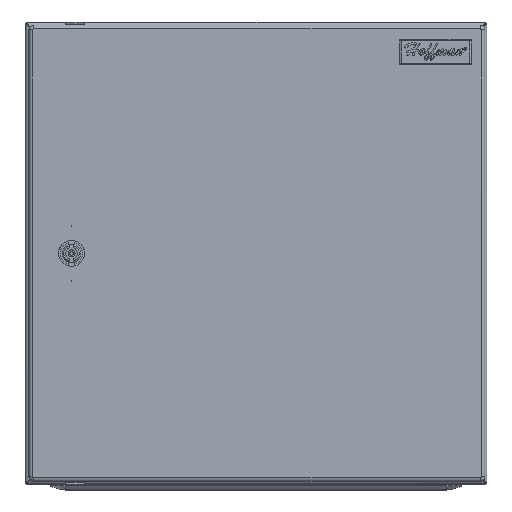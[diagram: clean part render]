
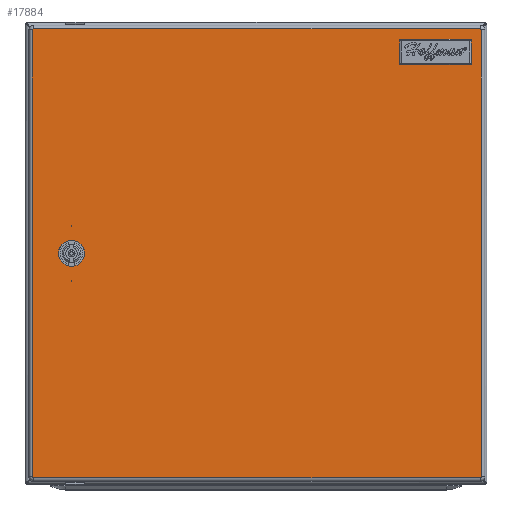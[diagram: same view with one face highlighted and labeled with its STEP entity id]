
A CAD part, top view. The second image highlights one B-rep face of the part: STEP entity #17884.
In plain terms, the highlighted planar face has unit normal (0, 0, 1).
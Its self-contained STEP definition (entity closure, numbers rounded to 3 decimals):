
#11574 = CARTESIAN_POINT ( 'NONE',  ( -171.803, 0., 1.17 ) ) ;
#11813 = CARTESIAN_POINT ( 'NONE',  ( -149.197, 0., 1.17 ) ) ;
#11910 = DIRECTION ( 'NONE',  ( 1., 0., 0. ) ) ;
#11911 = DIRECTION ( 'NONE',  ( 0., 0., 1. ) ) ;
#11912 = CARTESIAN_POINT ( 'NONE',  ( -160.5, 0., 1.17 ) ) ;
#11913 = AXIS2_PLACEMENT_3D ( 'NONE', #11912, #11911, #11910 ) ;
#11943 = CIRCLE ( 'NONE', #11913, 11.303 ) ;
#14355 = VECTOR ( 'NONE', #14392, 1000. ) ;
#14356 = CARTESIAN_POINT ( 'NONE',  ( -193.473, 194.298, 1.17 ) ) ;
#14381 = LINE ( 'NONE', #14356, #14355 ) ;
#14391 = CARTESIAN_POINT ( 'NONE',  ( 193.473, 194.298, 1.17 ) ) ;
#14392 = DIRECTION ( 'NONE',  ( -1., 0., 0. ) ) ;
#14394 = DIRECTION ( 'NONE',  ( -1., 0., 0. ) ) ;
#14395 = DIRECTION ( 'NONE',  ( 0., 0., 1. ) ) ;
#14396 = CARTESIAN_POINT ( 'NONE',  ( 193.473, 193.473, 1.17 ) ) ;
#14397 = AXIS2_PLACEMENT_3D ( 'NONE', #14396, #14395, #14394 ) ;
#14398 = CIRCLE ( 'NONE', #14397, 0.825 ) ;
#14475 = DIRECTION ( 'NONE',  ( 0., -1., 0. ) ) ;
#14476 = VECTOR ( 'NONE', #14475, 1000. ) ;
#14523 = CARTESIAN_POINT ( 'NONE',  ( -194.298, 193.473, 1.17 ) ) ;
#14524 = LINE ( 'NONE', #14523, #14476 ) ;
#14576 = CARTESIAN_POINT ( 'NONE',  ( 194.298, -193.473, 1.17 ) ) ;
#14610 = CARTESIAN_POINT ( 'NONE',  ( 194.298, 193.473, 1.17 ) ) ;
#14701 = CARTESIAN_POINT ( 'NONE',  ( 193.473, -194.298, 1.17 ) ) ;
#14705 = CARTESIAN_POINT ( 'NONE',  ( -194.298, -193.473, 1.17 ) ) ;
#14718 = CARTESIAN_POINT ( 'NONE',  ( -193.473, -193.473, 1.17 ) ) ;
#14740 = DIRECTION ( 'NONE',  ( 0., 0., 1. ) ) ;
#14755 = DIRECTION ( 'NONE',  ( 1., 0., 0. ) ) ;
#14764 = AXIS2_PLACEMENT_3D ( 'NONE', #14718, #14740, #14755 ) ;
#14782 = DIRECTION ( 'NONE',  ( 1., 0., 0. ) ) ;
#14783 = DIRECTION ( 'NONE',  ( 0., 0., 1. ) ) ;
#14784 = AXIS2_PLACEMENT_3D ( 'NONE', #14791, #14783, #14782 ) ;
#14785 = CIRCLE ( 'NONE', #14784, 0.825 ) ;
#14791 = CARTESIAN_POINT ( 'NONE',  ( 193.473, -193.473, 1.17 ) ) ;
#14806 = CARTESIAN_POINT ( 'NONE',  ( -194.298, 193.473, 1.17 ) ) ;
#14822 = CIRCLE ( 'NONE', #14764, 0.825 ) ;
#15065 = DIRECTION ( 'NONE',  ( 0., 1., 0. ) ) ;
#15066 = CARTESIAN_POINT ( 'NONE',  ( 194.298, 193.473, 1.17 ) ) ;
#15067 = DIRECTION ( 'NONE',  ( 0., 0., 1. ) ) ;
#15068 = CARTESIAN_POINT ( 'NONE',  ( -193.473, 193.473, 1.17 ) ) ;
#15069 = AXIS2_PLACEMENT_3D ( 'NONE', #15068, #15067, #15076 ) ;
#15070 = CIRCLE ( 'NONE', #15069, 0.825 ) ;
#15075 = CARTESIAN_POINT ( 'NONE',  ( -193.473, 194.298, 1.17 ) ) ;
#15076 = DIRECTION ( 'NONE',  ( 1., 0., 0. ) ) ;
#15078 = VECTOR ( 'NONE', #15065, 1000. ) ;
#15079 = CARTESIAN_POINT ( 'NONE',  ( -193.473, -194.298, 1.17 ) ) ;
#15094 = LINE ( 'NONE', #15066, #15078 ) ;
#15104 = DIRECTION ( 'NONE',  ( 1., 0., 0. ) ) ;
#15105 = VECTOR ( 'NONE', #15104, 1000. ) ;
#15106 = CARTESIAN_POINT ( 'NONE',  ( -193.473, -194.298, 1.17 ) ) ;
#15107 = LINE ( 'NONE', #15106, #15105 ) ;
#15327 = VERTEX_POINT ( 'NONE', #11574 ) ;
#15394 = VERTEX_POINT ( 'NONE', #11813 ) ;
#15422 = EDGE_CURVE ( 'NONE', #15327, #15394, #11943, .T. ) ;
#15932 = CARTESIAN_POINT ( 'NONE',  ( -193.473, 193.473, 1.17 ) ) ;
#15933 = AXIS2_PLACEMENT_3D ( 'NONE', #15932, #16019, #16516 ) ;
#16019 = DIRECTION ( 'NONE',  ( 0., 0., 1. ) ) ;
#16219 = PLANE ( 'NONE',  #15933 ) ;
#16268 = EDGE_CURVE ( 'NONE', #16271, #16686, #14381, .T. ) ;
#16271 = VERTEX_POINT ( 'NONE', #14391 ) ;
#16288 = EDGE_CURVE ( 'NONE', #16388, #16271, #14398, .T. ) ;
#16346 = EDGE_CURVE ( 'NONE', #16528, #16511, #14524, .T. ) ;
#16387 = VERTEX_POINT ( 'NONE', #14576 ) ;
#16388 = VERTEX_POINT ( 'NONE', #14610 ) ;
#16510 = EDGE_CURVE ( 'NONE', #16511, #16680, #14822, .T. ) ;
#16511 = VERTEX_POINT ( 'NONE', #14705 ) ;
#16516 = DIRECTION ( 'NONE',  ( 1., 0., 0. ) ) ;
#16517 = FACE_OUTER_BOUND ( 'NONE', #17933, .T. ) ;
#16518 = FACE_BOUND ( 'NONE', #17885, .T. ) ;
#16528 = VERTEX_POINT ( 'NONE', #14806 ) ;
#16608 = EDGE_CURVE ( 'NONE', #16611, #16387, #14785, .T. ) ;
#16610 = CARTESIAN_POINT ( 'NONE',  ( -160.5, 0., 1.17 ) ) ;
#16611 = VERTEX_POINT ( 'NONE', #14701 ) ;
#16630 = CIRCLE ( 'NONE', #16790, 11.303 ) ;
#16680 = VERTEX_POINT ( 'NONE', #15079 ) ;
#16681 = EDGE_CURVE ( 'NONE', #16387, #16388, #15094, .T. ) ;
#16685 = EDGE_CURVE ( 'NONE', #16686, #16528, #15070, .T. ) ;
#16686 = VERTEX_POINT ( 'NONE', #15075 ) ;
#16702 = EDGE_CURVE ( 'NONE', #16680, #16611, #15107, .T. ) ;
#16790 = AXIS2_PLACEMENT_3D ( 'NONE', #16610, #16857, #16792 ) ;
#16792 = DIRECTION ( 'NONE',  ( 1., 0., 0. ) ) ;
#16857 = DIRECTION ( 'NONE',  ( 0., 0., 1. ) ) ;
#17812 = ORIENTED_EDGE ( 'NONE', *, *, #16346, .T. ) ;
#17815 = ORIENTED_EDGE ( 'NONE', *, *, #16510, .T. ) ;
#17827 = ORIENTED_EDGE ( 'NONE', *, *, #16681, .T. ) ;
#17837 = ORIENTED_EDGE ( 'NONE', *, *, #16702, .T. ) ;
#17840 = ORIENTED_EDGE ( 'NONE', *, *, #16288, .T. ) ;
#17843 = ORIENTED_EDGE ( 'NONE', *, *, #16608, .T. ) ;
#17884 = ADVANCED_FACE ( 'NONE', ( #16518, #16517 ), #16219, .T. ) ;
#17885 = EDGE_LOOP ( 'NONE', ( #17887, #17932 ) ) ;
#17887 = ORIENTED_EDGE ( 'NONE', *, *, #17889, .F. ) ;
#17889 = EDGE_CURVE ( 'NONE', #15394, #15327, #16630, .T. ) ;
#17932 = ORIENTED_EDGE ( 'NONE', *, *, #15422, .F. ) ;
#17933 = EDGE_LOOP ( 'NONE', ( #17935, #17812, #17815, #17837, #17843, #17827, #17840, #17959 ) ) ;
#17935 = ORIENTED_EDGE ( 'NONE', *, *, #16685, .T. ) ;
#17959 = ORIENTED_EDGE ( 'NONE', *, *, #16268, .T. ) ;
